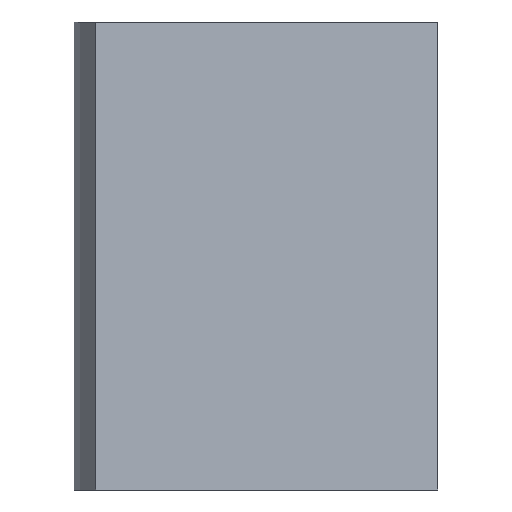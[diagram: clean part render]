
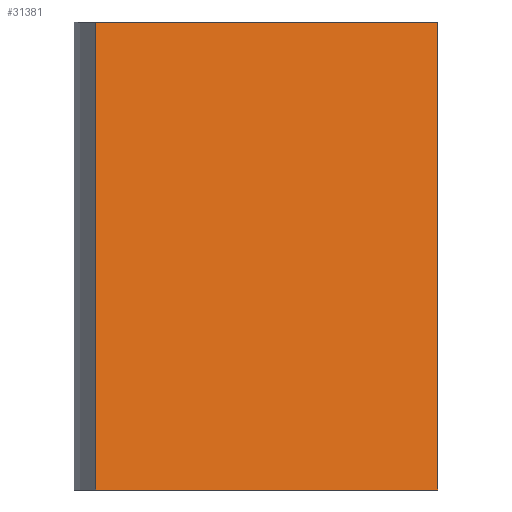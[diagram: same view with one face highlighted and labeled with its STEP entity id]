
A CAD part, left-side view. The second image highlights one B-rep face of the part: STEP entity #31381.
In plain terms, the highlighted planar face has unit normal (-0.966, -0.259, 0) as drawn and (-0.259, 0.966, 0) by its records, which use the part's own axes.
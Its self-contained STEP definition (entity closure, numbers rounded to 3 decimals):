
#785 = LINE ( 'NONE', #32791, #11905 ) ;
#6202 = ORIENTED_EDGE ( 'NONE', *, *, #48199, .T. ) ;
#6246 = FACE_OUTER_BOUND ( 'NONE', #47928, .T. ) ;
#7651 = DIRECTION ( 'NONE',  ( -0.966, -0.259, 0. ) ) ;
#9871 = CARTESIAN_POINT ( 'NONE',  ( 853.837, 493.125, -584.2 ) ) ;
#11905 = VECTOR ( 'NONE', #71109, 1000. ) ;
#12425 = DIRECTION ( 'NONE',  ( 0., 0., -1. ) ) ;
#13108 = ORIENTED_EDGE ( 'NONE', *, *, #21796, .F. ) ;
#14535 = VECTOR ( 'NONE', #78626, 1000. ) ;
#15832 = VERTEX_POINT ( 'NONE', #21087 ) ;
#21087 = CARTESIAN_POINT ( 'NONE',  ( 0., 264.34, -584.2 ) ) ;
#21796 = EDGE_CURVE ( 'NONE', #66798, #25084, #785, .T. ) ;
#22564 = AXIS2_PLACEMENT_3D ( 'NONE', #80754, #23725, #25781 ) ;
#23244 = VECTOR ( 'NONE', #12425, 1000. ) ;
#23725 = DIRECTION ( 'NONE',  ( 0.259, -0.966, 0. ) ) ;
#25084 = VERTEX_POINT ( 'NONE', #35679 ) ;
#25781 = DIRECTION ( 'NONE',  ( 0.966, 0.259, 0. ) ) ;
#27023 = CARTESIAN_POINT ( 'NONE',  ( 853.837, 493.125, 584.2 ) ) ;
#27363 = EDGE_CURVE ( 'NONE', #25084, #15832, #44101, .T. ) ;
#31366 = LINE ( 'NONE', #82174, #55398 ) ;
#31381 = ADVANCED_FACE ( 'NONE', ( #6246 ), #55404, .F. ) ;
#32791 = CARTESIAN_POINT ( 'NONE',  ( 0., 264.34, 584.2 ) ) ;
#35679 = CARTESIAN_POINT ( 'NONE',  ( 0., 264.34, 584.2 ) ) ;
#35890 = EDGE_CURVE ( 'NONE', #53696, #15832, #31366, .T. ) ;
#44101 = LINE ( 'NONE', #51181, #23244 ) ;
#47177 = CARTESIAN_POINT ( 'NONE',  ( 853.837, 493.125, 584.2 ) ) ;
#47928 = EDGE_LOOP ( 'NONE', ( #50598, #81676, #13108, #6202 ) ) ;
#48199 = EDGE_CURVE ( 'NONE', #66798, #53696, #52438, .T. ) ;
#50598 = ORIENTED_EDGE ( 'NONE', *, *, #35890, .T. ) ;
#51181 = CARTESIAN_POINT ( 'NONE',  ( 0., 264.34, 584.2 ) ) ;
#52438 = LINE ( 'NONE', #27023, #14535 ) ;
#53696 = VERTEX_POINT ( 'NONE', #9871 ) ;
#55398 = VECTOR ( 'NONE', #7651, 1000. ) ;
#55404 = PLANE ( 'NONE',  #22564 ) ;
#66798 = VERTEX_POINT ( 'NONE', #47177 ) ;
#71109 = DIRECTION ( 'NONE',  ( -0.966, -0.259, 0. ) ) ;
#78626 = DIRECTION ( 'NONE',  ( 0., 0., -1. ) ) ;
#80754 = CARTESIAN_POINT ( 'NONE',  ( 0., 264.34, 584.2 ) ) ;
#81676 = ORIENTED_EDGE ( 'NONE', *, *, #27363, .F. ) ;
#82174 = CARTESIAN_POINT ( 'NONE',  ( 0., 264.34, -584.2 ) ) ;
